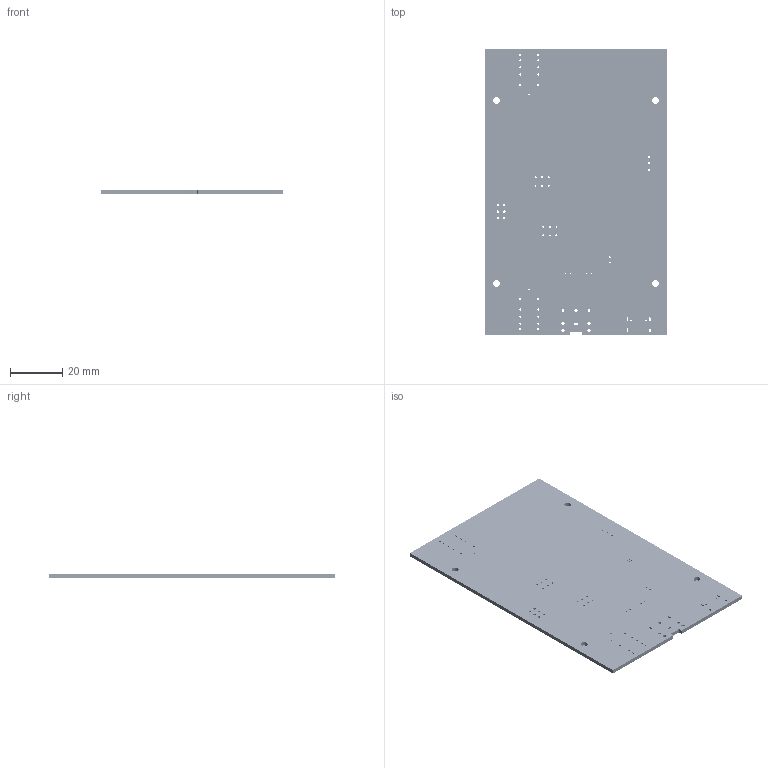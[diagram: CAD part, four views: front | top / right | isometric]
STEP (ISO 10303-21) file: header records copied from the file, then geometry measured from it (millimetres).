
FILE_DESCRIPTION(('KiCad electronic assembly'),'2;1');
FILE_NAME('amp44-revc-board.step','2026-09-10T21:36:54',('Pcbnew'),( 'Kicad'),'Open CASCADE STEP processor 7.6','KiCad to STEP converter' ,'Unknown');
FILE_SCHEMA(('AUTOMOTIVE_DESIGN { 1 0 10303 214 1 1 1 1 }'));
Length unit declared in the file: millimetre
Products named in the file (9): amp44-revc-board 1; amp44-revc-stage3_copper; amp44-revc-stage3_pad; amp44-revc-stage3_via; amp44-revc-stage3_silkscreen; amp44-revc-stage3_soldermask; amp44-revc-stage3_PCB
Assembly tree (8 placements, depth 2):
  amp44-revc-board 1
    amp44-revc-stage3_copper
    amp44-revc-stage3_pad
    amp44-revc-stage3_via
    amp44-revc-stage3_silkscreen
    amp44-revc-stage3_silkscreen
    amp44-revc-stage3_soldermask
    amp44-revc-stage3_soldermask
    amp44-revc-stage3_PCB
Bounding box: 70 x 110 x 1.66 mm (x, y, z)
Volume: 11959.4 mm3; surface area: 56102.9 mm2
Topology: 1674 solids, 2109 shells, 19811 faces, 55014 edges, 39016 vertices
Faces by surface type: plane 13851, cylinder 5960
Full cylindrical faces by diameter (mm): 0.15 x94, 0.175 x99, 0.2 x34, 0.204 x6, 0.25 x146, 0.275 x584, 0.3 x146, 0.45 x22, 0.5 x24, 0.55 x20, 0.6 x281, 0.65 x2, 0.7 x10, 0.75 x79, 0.8 x30, 0.909 x2, 0.95 x30, 0.959 x2, 1 x51, 1.01 x140, 1.2 x21, 1.4 x48, 1.508 x5, 1.609 x4, 1.8 x20, 1.81 x14, 2.208 x3, 2.6 x4, 2.91 x4
Entity records: 657369 total; most frequent: CARTESIAN_POINT 113850, DIRECTION 109721, ORIENTED_EDGE 103006, EDGE_CURVE 55014, LINE 39947, VECTOR 39947, VERTEX_POINT 39016, AXIS2_PLACEMENT_3D 34887
